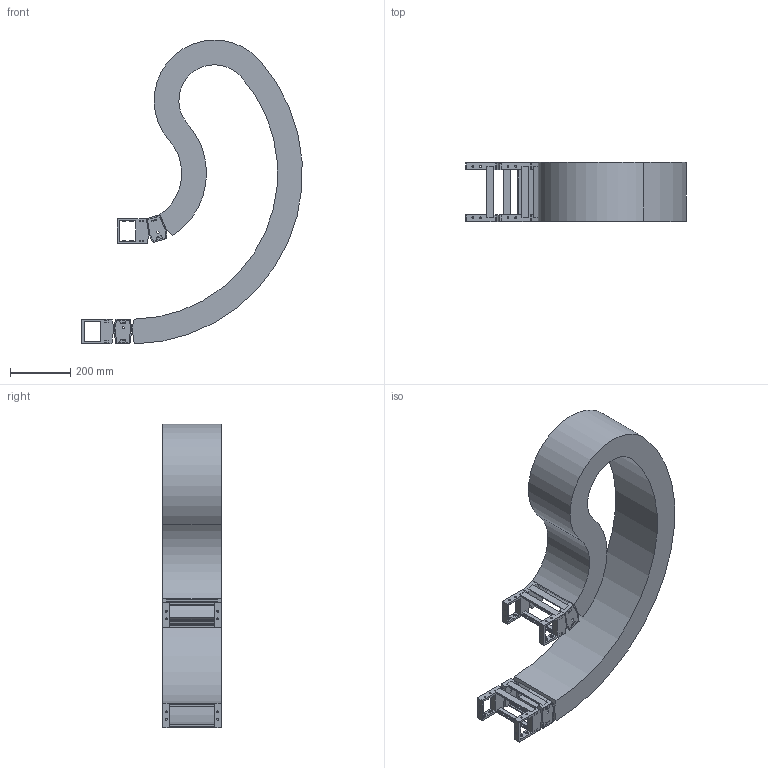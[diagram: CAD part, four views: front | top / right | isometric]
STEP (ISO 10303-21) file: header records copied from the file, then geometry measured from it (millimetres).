
FILE_DESCRIPTION( ( 'STEP AP214' ), '1' );
FILE_NAME( 'p:/temp/worker_35/temp/exporttempdir_3812_1912_YA3os/format_0/RV060CRA195199.5165120400485-001503025.05950.stp', '2021-07-27T05:41:36', ( 'License CC BY-ND 4.0' ), ( 'CADENAS' ), ' ', 'PARTsolutions', ' ' );
FILE_SCHEMA( ( 'AUTOMOTIVE_DESIGN { 1 0 10303 214 1 1 1 1 }' ) );
Length unit declared in the file: millimetre
Products named in the file (4): RV060CRA195199.5165120400485-001503025.05950; _RV060CRA195203165120400485-001501845.047-Chain; _RV060CR-SU-150-60; _RV060CR_FB-195
Assembly tree (5 placements, depth 2):
  RV060CRA195199.5165120400485-001503025.05950
    _RV060CRA195203165120400485-001501845.047-Chain
    _RV060CR-SU-150-60  x2
    _RV060CR_FB-195  x2
Bounding box: 729.03 x 195 x 1006.74 mm (x, y, z)
Volume: 14751518.4 mm3; surface area: 2252021.5 mm2
Topology: 5 solids, 5 shells, 508 faces, 1476 edges, 988 vertices
Faces by surface type: plane 400, cylinder 108
Full cylindrical faces by diameter (mm): 6 x24
Entity records: 10820 total; most frequent: CARTESIAN_POINT 1528, ORIENTED_EDGE 1500, DIRECTION 1410, EDGE_CURVE 750, LINE 630, VECTOR 630, VERTEX_POINT 508, AXIS2_PLACEMENT_3D 390
